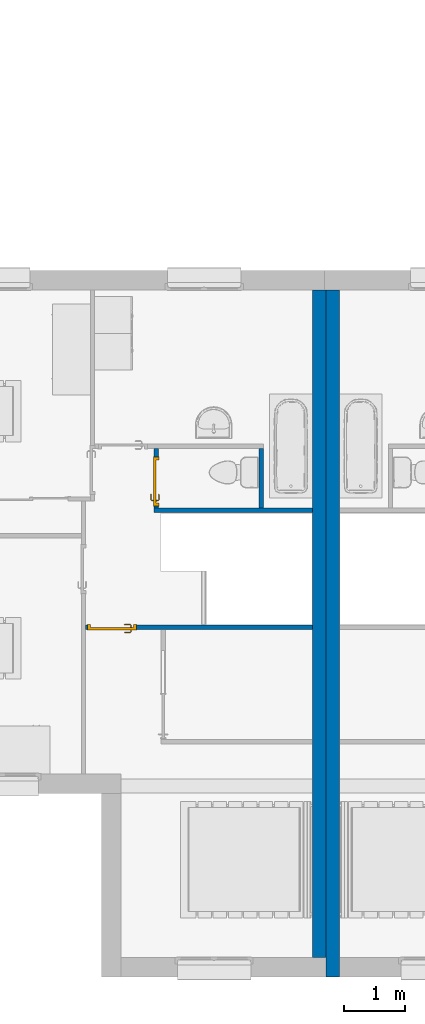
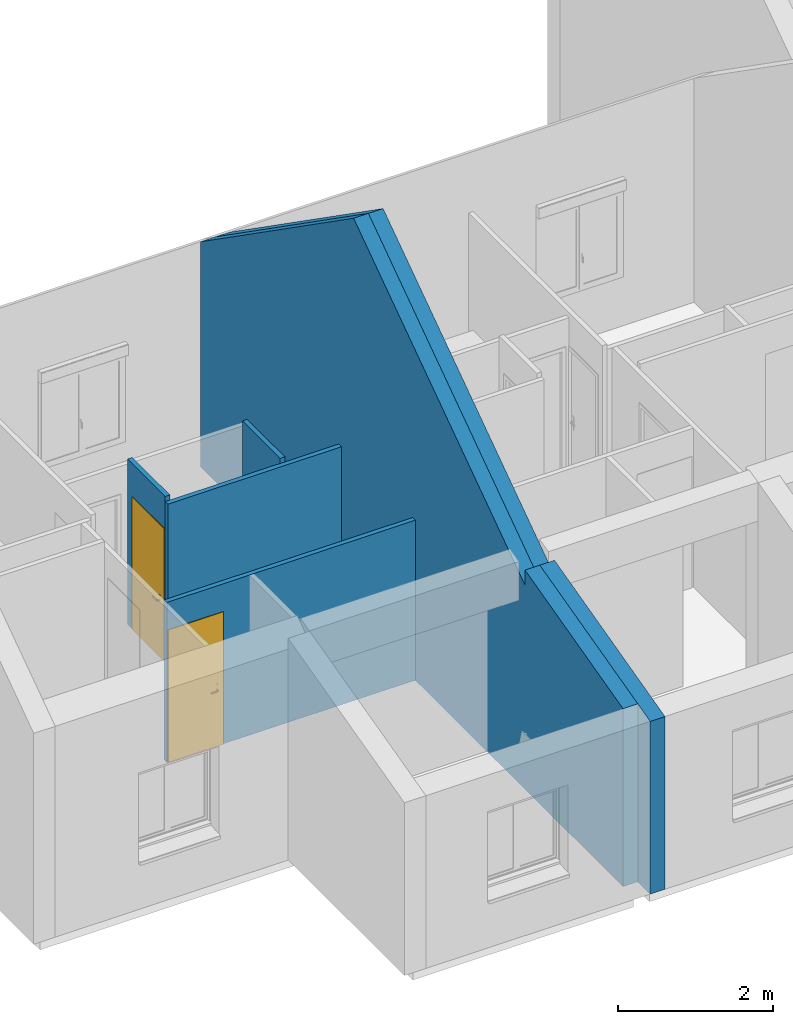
# One storey, part 12 of 50: 6 walls, 2 doors, 2 openings.
"""IFC2X3 building model written with IfcOpenShell, lengths in metres."""

from ifc_helpers import new_model, entity, si_unit, converted_unit, derived_unit, direction, frame, frame_2d, origin, place, context, subcontext, project, spatial, polyline, rectangle, extrude, clip, bounded_halfspace, faceted_brep, source, transform, mapped, material, material_list, layer, layer_set, layer_usage, type_object, type_shapes, element, fill, save


model = new_model("IFC2X3")

# Units and contexts
model_context = context("Model", 3, precision=1e-05, world=origin(), true_north=direction((6.12303176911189e-17, 1.0)))
context_of_model = context(None, 3, precision=1e-05, world=origin(), true_north=direction((6.12303176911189e-17, 1.0)))
body_context = subcontext(model_context, "Body", "Model", "MODEL_VIEW")
ifc_project = project(units=[si_unit("LENGTHUNIT", "METRE"), si_unit("AREAUNIT", "SQUARE_METRE"), si_unit("VOLUMEUNIT", "CUBIC_METRE"), converted_unit("PLANEANGLEUNIT", "DEGREE", entity("IfcRatioMeasure", 0.0174532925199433), si_unit("PLANEANGLEUNIT", "RADIAN"), dimensions=[0, 0, 0, 0, 0, 0, 0]), si_unit("MASSUNIT", "GRAM", prefix="KILO"), si_unit("TIMEUNIT", "SECOND"), si_unit("FREQUENCYUNIT", "HERTZ"), si_unit("THERMODYNAMICTEMPERATUREUNIT", "DEGREE_CELSIUS"), derived_unit("THERMALTRANSMITTANCEUNIT", [(si_unit("MASSUNIT", "GRAM", prefix="KILO"), 1), (si_unit("THERMODYNAMICTEMPERATUREUNIT", "KELVIN"), -1), (si_unit("TIMEUNIT", "SECOND"), -3)]), derived_unit("VOLUMETRICFLOWRATEUNIT", [(si_unit("LENGTHUNIT", "METRE"), 3), (si_unit("TIMEUNIT", "SECOND"), -1)]), si_unit("ELECTRICCURRENTUNIT", "AMPERE"), si_unit("ELECTRICVOLTAGEUNIT", "VOLT"), si_unit("POWERUNIT", "WATT"), si_unit("FORCEUNIT", "NEWTON", prefix="KILO"), si_unit("ILLUMINANCEUNIT", "LUX"), si_unit("LUMINOUSFLUXUNIT", "LUMEN"), si_unit("LUMINOUSINTENSITYUNIT", "CANDELA"), si_unit("PRESSUREUNIT", "PASCAL")], contexts=[model_context, context_of_model])

# Site, building, storey
site_placement = place(None, origin())
site = spatial("IfcSite", under=ifc_project, at=site_placement, Name="Surface", CompositionType="ELEMENT")
building_placement = place(site_placement, origin())
building = spatial("IfcBuilding", under=site, at=building_placement, CompositionType="ELEMENT")
storey_placement = place(building_placement, frame((0.0, 0.0, 2.82)))
storey = spatial("IfcBuildingStorey", under=building, at=storey_placement, Name="ETAGE", CompositionType="ELEMENT", Elevation=2.82)

# Wall, opening, door
ifc_material_1 = material(Name="Peinture - Blanc")
ifc_layer_1 = layer(ifc_material_1, 0.07)
ifc_layer_set_1 = layer_set([ifc_layer_1], Name="Mur de base:Int.  Platre 70 mm en blanc")
ifc_layer_usage_1 = layer_usage(ifc_layer_set_1, "AXIS2", "POSITIVE", -0.035)
wall_type_1 = type_object("IfcWallType", Name="Mur de base:Int.  Platre 70 mm en blanc", PredefinedType="STANDARD", material=ifc_layer_set_1)
wall_1_placement = place(storey_placement, frame((64.9146263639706, 82.6027566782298, 0.0)))
wall_1 = element("IfcWallStandardCase", 1, at=wall_1_placement, inside=storey, type_object=wall_type_1, material=ifc_layer_usage_1, Name="Mur de base:Int.  Platre 70 mm en blanc", ObjectType="Mur de base:Int.  Platre 70 mm en blanc", context=body_context, shape_type="SweptSolid", body=[
    extrude(rectangle(XDim=3.70038340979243, YDim=0.0699999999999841, at=frame_2d((1.85019170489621, -3.51801920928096e-15), x_axis=(-1.0, 0.0))), origin(), (0.0, 0.0, 1.0), 2.52),
])
opening_1_placement = place(wall_1_placement, frame((0.829999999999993, 0.0350000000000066, 0.0)))
opening_1 = element("IfcOpeningElement", 2, at=opening_1_placement, cuts=wall_1, Name="FR_Simple (R):73 x 204 - (70):1", ObjectType="Opening", context=body_context, shape_type="SweptSolid", body=[
    extrude(rectangle(XDim=2.075, YDim=0.799999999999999, at=frame_2d((1.0375, 0.4), x_axis=(1.0, 0.0))), frame((0.0, 0.0, 0.0), z_axis=(0.0, -1.0, 0.0), x_axis=(0.0, 0.0, 1.0)), (0.0, 0.0, 1.0), 0.07),
])
ifc_material_2 = material(Name="Poignée Porte")
ifc_material_3 = material(Name="Dormants Portes")
ifc_material_4 = material(Name="Panneaux Portes")
ifc_material_list_1 = material_list([ifc_material_2, ifc_material_3, ifc_material_4])
ifc_material_list_2 = material_list([ifc_material_2, ifc_material_3, ifc_material_4])
door_style = type_object("IfcDoorStyle", Name="73 x 204 - (70)", ConstructionType="NOTDEFINED", OperationType="SINGLE_SWING_RIGHT", ParameterTakesPrecedence=False, Sizeable=False, material=ifc_material_list_2)
shared_shape = source(origin(), body_context, "Body", "Brep", [
    faceted_brep([(0.710000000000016, -0.0130000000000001, 0.764641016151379), (0.720352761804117, -0.0130000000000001, 0.766003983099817), (0.730000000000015, -0.0130000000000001, 0.770000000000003), (0.730000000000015, -0.0130000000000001, 0.980000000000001), (0.720352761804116, -0.0130000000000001, 0.983996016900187), (0.710000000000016, -0.0130000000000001, 0.985358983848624), (0.699647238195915, -0.0130000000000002, 0.983996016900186), (0.690000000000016, -0.0130000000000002, 0.980000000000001), (0.690000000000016, -0.0130000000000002, 0.770000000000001), (0.699647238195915, -0.0130000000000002, 0.766003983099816), (0.730000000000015, -0.00800000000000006, 0.980000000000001), (0.730000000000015, -0.00800000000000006, 0.770000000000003), (0.720352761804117, -0.00800000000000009, 0.766003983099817), (0.710000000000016, -0.00800000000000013, 0.764641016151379), (0.699647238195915, -0.00800000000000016, 0.766003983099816), (0.690000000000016, -0.00800000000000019, 0.770000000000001), (0.690000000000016, -0.00800000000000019, 0.980000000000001), (0.699647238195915, -0.00800000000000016, 0.983996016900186), (0.710000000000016, -0.00800000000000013, 0.985358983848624), (0.720352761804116, -0.00800000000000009, 0.983996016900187)], [[[0, 1, 2, 3, 4, 5, 6, 7, 8, 9]], [[10, 11, 12, 13, 14, 15, 16, 17, 18, 19]], [[1, 12, 11, 2]], [[0, 13, 12, 1]], [[9, 14, 13, 0]], [[9, 8, 15, 14]], [[15, 8, 7, 16]], [[6, 17, 16, 7]], [[5, 18, 17, 6]], [[4, 19, 18, 5]], [[4, 3, 10, 19]], [[10, 3, 2, 11]]]),
    faceted_brep([(0.730000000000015, 0.0319999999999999, 0.770000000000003), (0.730000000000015, 0.0319999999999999, 0.980000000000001), (0.720352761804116, 0.0319999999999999, 0.983996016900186), (0.710000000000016, 0.0319999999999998, 0.985358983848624), (0.699647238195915, 0.0319999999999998, 0.983996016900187), (0.690000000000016, 0.0319999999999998, 0.980000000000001), (0.690000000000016, 0.0319999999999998, 0.770000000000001), (0.699647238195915, 0.0319999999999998, 0.766003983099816), (0.710000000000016, 0.0319999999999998, 0.764641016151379), (0.720352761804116, 0.0319999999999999, 0.766003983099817), (0.710000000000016, 0.0369999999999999, 0.985358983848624), (0.720352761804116, 0.0369999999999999, 0.983996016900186), (0.730000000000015, 0.0369999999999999, 0.980000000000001), (0.730000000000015, 0.0369999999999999, 0.770000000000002), (0.720352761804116, 0.0369999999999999, 0.766003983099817), (0.710000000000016, 0.0369999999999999, 0.764641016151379), (0.699647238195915, 0.0369999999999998, 0.766003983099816), (0.690000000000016, 0.0369999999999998, 0.770000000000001), (0.690000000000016, 0.0369999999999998, 0.980000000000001), (0.699647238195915, 0.0369999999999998, 0.983996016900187)], [[[0, 1, 2, 3, 4, 5, 6, 7, 8, 9]], [[10, 11, 12, 13, 14, 15, 16, 17, 18, 19]], [[4, 19, 18, 5]], [[3, 10, 19, 4]], [[2, 11, 10, 3]], [[2, 1, 12, 11]], [[12, 1, 0, 13]], [[9, 14, 13, 0]], [[8, 15, 14, 9]], [[7, 16, 15, 8]], [[7, 6, 17, 16]], [[17, 6, 5, 18]]]),
    faceted_brep([(0.707974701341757, -0.0130000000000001, 0.907780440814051), (0.712025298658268, -0.0130000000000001, 0.907780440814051), (0.716000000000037, -0.0130000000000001, 0.906999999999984), (0.716000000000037, -0.0130000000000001, 0.892999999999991), (0.712025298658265, -0.0130000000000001, 0.892219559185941), (0.707974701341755, -0.0130000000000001, 0.89221955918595), (0.703999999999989, -0.0130000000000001, 0.893000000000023), (0.703999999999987, -0.0130000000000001, 0.90699999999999), (0.712025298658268, -0.0390045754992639, 0.907780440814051), (0.716000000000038, -0.0406509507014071, 0.906999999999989), (0.707974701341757, -0.0373267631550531, 0.907780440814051), (0.694298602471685, -0.0510028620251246, 0.907780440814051), (0.695976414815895, -0.0550534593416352, 0.907780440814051), (0.609142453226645, -0.0550534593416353, 0.90778044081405), (0.610820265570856, -0.0510028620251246, 0.90778044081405), (0.604342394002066, -0.0445249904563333, 0.90778044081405), (0.601478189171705, -0.0473891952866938, 0.90778044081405), (0.703999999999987, -0.0356803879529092, 0.90699999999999), (0.703999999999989, -0.0356803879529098, 0.893000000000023), (0.707974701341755, -0.0373267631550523, 0.89221955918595), (0.712025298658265, -0.0390045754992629, 0.89221955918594), (0.695976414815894, -0.0550534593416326, 0.89221955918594), (0.694298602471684, -0.0510028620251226, 0.89221955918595), (0.610820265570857, -0.0510028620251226, 0.89221955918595), (0.609142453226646, -0.0550534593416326, 0.89221955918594), (0.601478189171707, -0.0473891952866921, 0.89221955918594), (0.604342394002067, -0.044524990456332, 0.89221955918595), (0.716000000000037, -0.0406509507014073, 0.892999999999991), (0.69762279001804, -0.059028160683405, 0.906999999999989), (0.692652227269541, -0.0470281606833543, 0.90699999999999), (0.692652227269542, -0.0470281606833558, 0.893000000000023), (0.697622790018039, -0.0590281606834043, 0.892999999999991), (0.65255943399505, -0.053182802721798, 0.907878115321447), (0.657692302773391, -0.0590281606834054, 0.906999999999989), (0.607496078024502, -0.0590281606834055, 0.906999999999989), (0.652559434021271, -0.0470281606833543, 0.90699999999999), (0.612466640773, -0.0470281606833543, 0.906999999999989), (0.652559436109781, -0.0470281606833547, 0.893000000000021), (0.612466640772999, -0.0470281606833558, 0.893000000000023), (0.652559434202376, -0.0531828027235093, 0.892121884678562), (0.647426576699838, -0.0590281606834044, 0.892999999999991), (0.607496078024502, -0.0590281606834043, 0.892999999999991), (0.607152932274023, -0.0417144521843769, 0.89300000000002), (0.598667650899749, -0.0501997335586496, 0.892999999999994), (0.598667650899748, -0.0501997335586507, 0.906999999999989), (0.607152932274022, -0.0417144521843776, 0.906999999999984)], [[[0, 1, 2, 3, 4, 5, 6, 7]], [[2, 1, 8, 9]], [[1, 0, 10, 11, 12, 8]], [[13, 14, 15, 16]], [[0, 7, 17, 10]], [[18, 17, 7, 6]], [[5, 19, 18, 6]], [[5, 4, 20, 21, 22, 19]], [[23, 24, 25, 26]], [[3, 27, 20, 4]], [[9, 27, 3, 2]], [[9, 8, 12, 28]], [[10, 17, 29, 11]], [[30, 29, 17, 18]], [[18, 19, 22, 30]], [[20, 27, 31, 21]], [[28, 31, 27, 9]], [[12, 32, 33]], [[13, 33, 32]], [[33, 28, 12]], [[33, 13, 34]], [[11, 35, 32]], [[32, 12, 11]], [[32, 35, 14]], [[35, 11, 29]], [[36, 14, 35]], [[13, 32, 14]], [[30, 37, 38, 36, 35, 29]], [[39, 37, 22]], [[40, 41, 24]], [[40, 21, 31]], [[39, 21, 40]], [[23, 37, 39]], [[39, 24, 23]], [[30, 22, 37]], [[37, 23, 38]], [[21, 39, 22]], [[24, 39, 40]], [[31, 28, 33, 34, 41, 40]], [[42, 26, 25, 43, 44, 16, 15, 45]], [[13, 16, 44, 34]], [[36, 45, 15, 14]], [[42, 45, 36, 38]], [[38, 23, 26, 42]], [[24, 41, 43, 25]], [[44, 43, 41, 34]]]),
    faceted_brep([(0.712025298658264, 0.0369999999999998, 0.907780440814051), (0.707974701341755, 0.0369999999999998, 0.907780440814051), (0.703999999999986, 0.0369999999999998, 0.90699999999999), (0.703999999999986, 0.0369999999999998, 0.89300000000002), (0.707974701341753, 0.0369999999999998, 0.892219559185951), (0.712025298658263, 0.0369999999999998, 0.892219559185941), (0.716000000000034, 0.0369999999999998, 0.892999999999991), (0.716000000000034, 0.0369999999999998, 0.90699999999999), (0.703999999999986, 0.0594852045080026, 0.90699999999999), (0.703999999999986, 0.0594852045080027, 0.89300000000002), (0.707974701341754, 0.0611315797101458, 0.907780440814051), (0.712025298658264, 0.0628093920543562, 0.907780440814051), (0.695838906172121, 0.0789957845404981, 0.907780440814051), (0.69416109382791, 0.0749451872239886, 0.907780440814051), (0.610793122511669, 0.0749451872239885, 0.907780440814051), (0.609115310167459, 0.0789957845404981, 0.907780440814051), (0.601451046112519, 0.071331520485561, 0.907780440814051), (0.604315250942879, 0.0684673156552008, 0.907780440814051), (0.716000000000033, 0.0644557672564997, 0.90699999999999), (0.716000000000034, 0.0644557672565, 0.892999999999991), (0.712025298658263, 0.0628093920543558, 0.892219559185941), (0.707974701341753, 0.0611315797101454, 0.892219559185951), (0.69416109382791, 0.0749451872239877, 0.892219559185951), (0.69583890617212, 0.0789957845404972, 0.892219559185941), (0.609115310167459, 0.0789957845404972, 0.89221955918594), (0.610793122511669, 0.0749451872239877, 0.89221955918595), (0.60431525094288, 0.0684673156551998, 0.89221955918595), (0.60145104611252, 0.07133152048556, 0.89221955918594), (0.692514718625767, 0.07097048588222, 0.89300000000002), (0.692514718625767, 0.0709704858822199, 0.90699999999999), (0.697485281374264, 0.0829704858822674, 0.90699999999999), (0.697485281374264, 0.082970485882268, 0.892999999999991), (0.652477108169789, 0.0709704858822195, 0.90699999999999), (0.612439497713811, 0.0709704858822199, 0.90699999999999), (0.612439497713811, 0.0709704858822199, 0.89300000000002), (0.652477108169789, 0.0709704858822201, 0.89300000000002), (0.652477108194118, 0.0771249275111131, 0.907878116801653), (0.647399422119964, 0.0829704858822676, 0.90699999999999), (0.607468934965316, 0.0829704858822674, 0.90699999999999), (0.657554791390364, 0.0829704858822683, 0.892999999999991), (0.607468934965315, 0.082970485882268, 0.892999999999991), (0.65247710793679, 0.0771249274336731, 0.892121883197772), (0.598640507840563, 0.0741420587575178, 0.90699999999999), (0.598640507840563, 0.074142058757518, 0.892999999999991), (0.607125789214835, 0.0656567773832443, 0.89300000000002), (0.607125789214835, 0.0656567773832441, 0.90699999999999)], [[[0, 1, 2, 3, 4, 5, 6, 7]], [[8, 9, 3, 2]], [[1, 10, 8, 2]], [[1, 0, 11, 12, 13, 10]], [[14, 15, 16, 17]], [[7, 18, 11, 0]], [[18, 7, 6, 19]], [[6, 5, 20, 19]], [[5, 4, 21, 22, 23, 20]], [[24, 25, 26, 27]], [[4, 3, 9, 21]], [[28, 9, 8, 29]], [[8, 10, 13, 29]], [[18, 30, 12, 11]], [[31, 30, 18, 19]], [[19, 20, 23, 31]], [[21, 9, 28, 22]], [[28, 29, 32, 33, 34, 35]], [[36, 32, 13]], [[37, 38, 15]], [[37, 12, 30]], [[36, 12, 37]], [[14, 32, 36]], [[36, 15, 14]], [[29, 13, 32]], [[32, 14, 33]], [[12, 36, 13]], [[15, 36, 37]], [[30, 31, 39, 40, 38, 37]], [[23, 41, 39]], [[24, 39, 41]], [[39, 31, 23]], [[39, 24, 40]], [[22, 35, 41]], [[41, 23, 22]], [[41, 35, 25]], [[35, 22, 28]], [[34, 25, 35]], [[24, 41, 25]], [[17, 16, 42, 43, 27, 26, 44, 45]], [[44, 34, 33, 45]], [[33, 14, 17, 45]], [[15, 38, 42, 16]], [[42, 38, 40, 43]], [[24, 27, 43, 40]], [[34, 44, 26, 25]]]),
    faceted_brep([(0.800000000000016, 0.0, 0.0), (0.810000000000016, 0.0, 0.0), (0.810000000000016, -0.00799999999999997, 0.0), (0.765000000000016, -0.00799999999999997, 0.0), (0.765000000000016, 0.032, 0.0), (0.750000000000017, 0.032, 0.0), (0.750000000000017, 0.0780000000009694, 0.0), (0.810000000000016, 0.0780000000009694, 0.0), (0.810000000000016, 0.0700000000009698, 0.0), (0.800000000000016, 0.0700000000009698, 0.0), (0.800000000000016, 0.0700000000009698, 2.075), (0.800000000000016, 0.0, 2.075), (0.810000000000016, 0.0700000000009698, 2.085), (-0.00999999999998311, 0.0700000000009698, 2.085), (-0.00999999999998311, 0.0700000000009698, 0.0), (0.0, 0.0700000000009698, 0.0), (0.0, 0.0700000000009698, 2.075), (0.810000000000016, 0.0780000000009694, 2.085), (0.750000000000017, 0.0780000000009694, 2.025), (0.0500000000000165, 0.0780000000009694, 2.025), (0.0500000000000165, 0.0780000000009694, 0.0), (-0.00999999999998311, 0.0780000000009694, 0.0), (-0.00999999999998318, 0.0780000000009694, 2.085), (0.750000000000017, 0.032, 2.025), (0.765000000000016, 0.032, 2.04), (0.0350000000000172, 0.032, 2.04), (0.0350000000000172, 0.032, 0.0), (0.0500000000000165, 0.032, 0.0), (0.0500000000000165, 0.032, 2.025), (0.765000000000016, -0.00799999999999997, 2.04), (0.810000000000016, -0.00799999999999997, 2.085), (-0.00999999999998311, -0.00799999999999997, 2.085), (-0.00999999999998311, -0.00799999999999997, 0.0), (0.0350000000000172, -0.00799999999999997, 0.0), (0.0350000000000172, -0.00799999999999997, 2.04), (0.810000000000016, 0.0, 2.085), (0.0, 0.0, 2.075), (0.0, 0.0, 0.0), (-0.00999999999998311, 0.0, 0.0), (-0.00999999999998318, 0.0, 2.085)], [[[0, 1, 2, 3, 4, 5, 6, 7, 8, 9]], [[9, 10, 11, 0]], [[8, 12, 13, 14, 15, 16, 10, 9]], [[7, 17, 12, 8]], [[6, 18, 19, 20, 21, 22, 17, 7]], [[5, 23, 18, 6]], [[4, 24, 25, 26, 27, 28, 23, 5]], [[3, 29, 24, 4]], [[2, 30, 31, 32, 33, 34, 29, 3]], [[1, 35, 30, 2]], [[0, 11, 36, 37, 38, 39, 35, 1]], [[10, 16, 36, 11]], [[17, 22, 13, 12]], [[23, 28, 19, 18]], [[29, 34, 25, 24]], [[35, 39, 31, 30]], [[37, 15, 14, 21, 20, 27, 26, 33, 32, 38]], [[16, 15, 37, 36]], [[22, 21, 14, 13]], [[28, 27, 20, 19]], [[34, 33, 26, 25]], [[39, 38, 32, 31]]]),
    faceted_brep([(0.765000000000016, -0.00799999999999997, 2.04), (0.0350000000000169, -0.00799999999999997, 2.04), (0.0350000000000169, -0.00799999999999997, 0.0), (0.765000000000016, -0.00799999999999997, 0.0), (0.765000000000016, 0.032, 2.04), (0.765000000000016, 0.032, 0.0), (0.0350000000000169, 0.032, 0.0), (0.0350000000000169, 0.032, 2.04)], [[[0, 1, 2, 3]], [[4, 5, 6, 7]], [[3, 5, 4, 0]], [[2, 6, 5, 3]], [[1, 7, 6, 2]], [[0, 4, 7, 1]]]),
])
type_shapes(door_style, [shared_shape])
door_1_placement = place(opening_1_placement, frame((-0.800000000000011, -0.0700000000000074, 0.0)))
door_1 = element("IfcDoor", 3, at=door_1_placement, inside=storey, type_object=door_style, material=ifc_material_list_1, Name="FR_Simple (R):73 x 204 - (70)", ObjectType="73 x 204 - (70)", OverallHeight=2.075, OverallWidth=0.8, context=body_context, shape_type="MappedRepresentation", body=[
    mapped(shared_shape, transform((0.0, 0.0, 0.0), scale=1.0)),
])
fill(opening_1, door_1)

# Wall
ifc_layer_usage_2 = layer_usage(ifc_layer_set_1, "AXIS2", "POSITIVE", -0.035)
wall_2_placement = place(storey_placement, frame((68.615009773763, 84.5094372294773, 0.0), z_axis=(0.0, 0.0, 1.0), x_axis=(-1.0, 0.0, 0.0)))
element("IfcWallStandardCase", 4, at=wall_2_placement, inside=storey, type_object=wall_type_1, material=ifc_layer_usage_2, Name="Mur de base:Int.  Platre 70 mm en blanc", ObjectType="Mur de base:Int.  Platre 70 mm en blanc", context=body_context, shape_type="SweptSolid", body=[
    extrude(rectangle(XDim=2.58204916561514, YDim=0.0699999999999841, at=frame_2d((1.29102458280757, 1.6306400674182e-16), x_axis=(-1.0, 0.0))), origin(), (0.0, 0.0, 1.0), 2.52),
])

# Wall, opening, door
ifc_layer_usage_3 = layer_usage(ifc_layer_set_1, "AXIS2", "POSITIVE", -0.035)
wall_3_placement = place(storey_placement, frame((66.0679606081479, 84.5444372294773, 0.0), z_axis=(0.0, 0.0, 1.0), x_axis=(0.0, 1.0, 0.0)))
wall_3 = element("IfcWallStandardCase", 5, at=wall_3_placement, inside=storey, type_object=wall_type_1, material=ifc_layer_usage_3, Name="Mur de base:Int.  Platre 70 mm en blanc", ObjectType="Mur de base:Int.  Platre 70 mm en blanc", context=body_context, shape_type="SweptSolid", body=[
    extrude(rectangle(XDim=0.973319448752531, YDim=0.0700000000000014, at=frame_2d((0.486659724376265, 1.12757025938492e-15), x_axis=(-1.0, 0.0))), origin(), (0.0, 0.0, 1.0), 2.6),
])
opening_2_placement = place(wall_3_placement, frame((0.0333194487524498, -0.0350000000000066, 0.0)))
opening_2 = element("IfcOpeningElement", 6, at=opening_2_placement, cuts=wall_3, Name="FR_Simple (R):73 x 204 - (70):1", ObjectType="Opening", context=body_context, shape_type="SweptSolid", body=[
    extrude(rectangle(XDim=2.075, YDim=0.799999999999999, at=frame_2d((1.0375, 0.4), x_axis=(1.0, 0.0))), frame((0.0, 0.0, 0.0), z_axis=(0.0, 1.0, 0.0), x_axis=(0.0, 0.0, 1.0)), (0.0, 0.0, 1.0), 0.07),
])
ifc_material_list_3 = material_list([ifc_material_2, ifc_material_3, ifc_material_4])
door_2_placement = place(opening_2_placement, frame((0.800000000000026, 0.0700000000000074, 0.0), z_axis=(0.0, 0.0, 1.0), x_axis=(-1.0, 0.0, 0.0)))
door_2 = element("IfcDoor", 7, at=door_2_placement, inside=storey, type_object=door_style, material=ifc_material_list_3, Name="FR_Simple (R):73 x 204 - (70)", ObjectType="73 x 204 - (70)", OverallHeight=2.075, OverallWidth=0.800000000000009, context=body_context, shape_type="MappedRepresentation", body=[
    mapped(shared_shape, transform((0.0, 0.0, 0.0), scale=1.0)),
])
fill(opening_2, door_2)

# Walls
ifc_layer_usage_4 = layer_usage(ifc_layer_set_1, "AXIS2", "POSITIVE", -0.035)
wall_4_placement = place(storey_placement, frame((67.7796263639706, 84.5444372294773, 0.0), z_axis=(0.0, 0.0, 1.0), x_axis=(0.0, 1.0, 0.0)))
element("IfcWallStandardCase", 8, at=wall_4_placement, inside=storey, type_object=wall_type_1, material=ifc_layer_usage_4, Name="Mur de base:Int.  Platre 70 mm en blanc", ObjectType="Mur de base:Int.  Platre 70 mm en blanc", context=body_context, shape_type="SweptSolid", body=[
    extrude(rectangle(XDim=0.973319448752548, YDim=0.0700000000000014, at=frame_2d((0.486659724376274, 1.12757025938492e-15), x_axis=(-1.0, 0.0))), origin(), (0.0, 0.0, 1.0), 2.6),
])
ifc_material_5 = material(Name="Enduit blanc cassé2")
ifc_layer_2 = layer(ifc_material_5, 0.02)
ifc_material_6 = material(Name="Parpaing")
ifc_layer_3 = layer(ifc_material_6, 0.1)
ifc_material_7 = material(Name="Isolant")
ifc_layer_4 = layer(ifc_material_7, 0.1)
ifc_layer_set_2 = layer_set([ifc_layer_2, ifc_layer_3, ifc_layer_4], Name="Mur de base:MITOYEN. Parpaing 10 + Isolant 10+ PLACO 2")
ifc_layer_usage_5 = layer_usage(ifc_layer_set_2, "AXIS2", "NEGATIVE", 0.11)
wall_type_2 = type_object("IfcWallType", Name="Mur de base:MITOYEN. Parpaing 10 + Isolant 10+ PLACO 2", PredefinedType="STANDARD", material=ifc_layer_set_2)
wall_5_placement = place(storey_placement, frame((68.9442429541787, 76.8877566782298, 0.0), z_axis=(0.0, 0.0, 1.0), x_axis=(0.0, 1.0, 0.0)))
element("IfcWallStandardCase", 9, at=wall_5_placement, inside=storey, type_object=wall_type_2, material=ifc_layer_usage_5, Name="Mur de base:MITOYEN. Parpaing 10 + Isolant 10+ PLACO 2", ObjectType="Mur de base:MITOYEN. Parpaing 10 + Isolant 10+ PLACO 2", context=body_context, shape_type="Clipping", body=[
    clip(clip(clip(extrude(rectangle(XDim=11.2200000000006, YDim=0.220000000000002, at=frame_2d((5.61000000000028, 7.35522753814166e-16), x_axis=(-1.0, 0.0))), origin(), (0.0, 0.0, 1.0), 6.30988618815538), bounded_halfspace(frame((7.27000000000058, -0.109999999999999, 6.30988618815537), z_axis=(0.573576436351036, 0.0, 0.819152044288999), x_axis=(0.0, 1.0, 0.0)), False, frame((7.27000000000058, -0.109999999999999, 6.30988618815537)), polyline([(0.0, 0.0), (3.94999999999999, 0.0), (3.94999999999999, 0.22), (0.0, 0.220000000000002), (0.0, 0.0)]))), bounded_halfspace(frame((2.85000000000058, -0.109999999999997, 3.21496886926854), z_axis=(-0.573576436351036, 0.0, 0.819152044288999), x_axis=(0.0, -1.0, 0.0)), False, frame((2.85000000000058, -0.109999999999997, 3.21496886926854)), polyline([(0.0, 0.0), (4.42, 0.0), (4.42, 0.220000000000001), (0.0, 0.220000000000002), (0.0, 0.0)]))), bounded_halfspace(frame((0.0, -0.110000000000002, 2.72), z_axis=(-0.248864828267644, 0.0, 0.968538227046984), x_axis=(0.0, -1.0, 0.0)), False, frame((0.0, -0.110000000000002, 2.72)), polyline([(0.0, 0.0), (0.319999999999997, 0.0), (2.85000000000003, 0.0), (2.85000000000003, 0.220000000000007), (0.319999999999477, 0.220000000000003), (0.0, 0.220000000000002), (0.0, 0.0)]))),
])
ifc_layer_usage_6 = layer_usage(ifc_layer_set_2, "AXIS2", "POSITIVE", -0.11)
wall_6_placement = place(storey_placement, frame((68.7250097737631, 77.2077566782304, 0.0), z_axis=(0.0, 0.0, 1.0), x_axis=(0.0, 1.0, 0.0)))
element("IfcWallStandardCase", 10, at=wall_6_placement, inside=storey, type_object=wall_type_2, material=ifc_layer_usage_6, Name="Mur de base:MITOYEN. Parpaing 10 + Isolant 10+ PLACO 2", ObjectType="Mur de base:MITOYEN. Parpaing 10 + Isolant 10+ PLACO 2", context=body_context, shape_type="Clipping", body=[
    clip(clip(clip(extrude(rectangle(XDim=10.8999999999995, YDim=0.220000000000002, at=frame_2d((5.44999999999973, 2.62290189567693e-15), x_axis=(-1.0, 0.0))), origin(), (0.0, 0.0, 1.0), 6.30988618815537), bounded_halfspace(frame((6.94999999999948, -0.109999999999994, 6.30988618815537), z_axis=(0.573576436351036, 0.0, 0.819152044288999), x_axis=(0.0, 1.0, 0.0)), False, frame((6.94999999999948, -0.109999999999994, 6.30988618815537)), polyline([(0.0, 0.0), (3.94999999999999, 0.0), (3.94999999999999, 0.0182668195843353), (3.94999999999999, 0.220000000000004), (0.0, 0.220000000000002), (0.0, 0.0)]))), bounded_halfspace(frame((2.52999999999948, -0.109999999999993, 3.21496886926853), z_axis=(-0.573576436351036, 0.0, 0.819152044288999), x_axis=(0.0, -1.0, 0.0)), False, frame((2.52999999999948, -0.109999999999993, 3.21496886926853)), polyline([(0.0, 0.0), (4.42, 0.0), (4.42000000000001, 0.22), (0.0, 0.220000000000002), (0.0, 0.0)]))), bounded_halfspace(frame((0.0, -0.109999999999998, 2.80222364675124), z_axis=(-0.248864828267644, 0.0, 0.968538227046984), x_axis=(0.0, -1.0, 0.0)), False, frame((0.0, -0.109999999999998, 2.80222364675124)), polyline([(0.0, 0.0), (2.52999999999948, 0.0), (2.52999999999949, 0.220000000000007), (0.0, 0.220000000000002), (0.0, 0.000766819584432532), (0.0, 0.0)]))),
])

save(model, "model.ifc")
